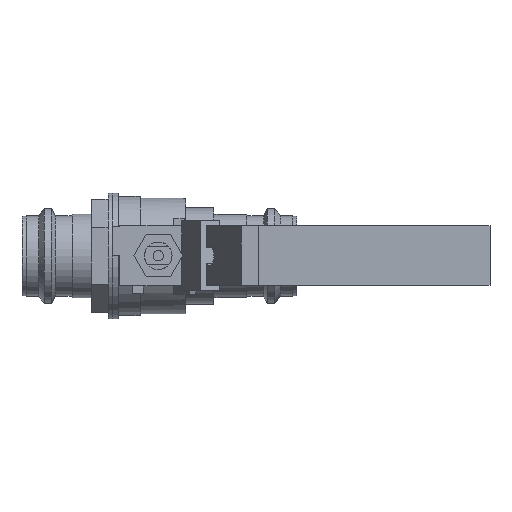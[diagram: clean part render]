
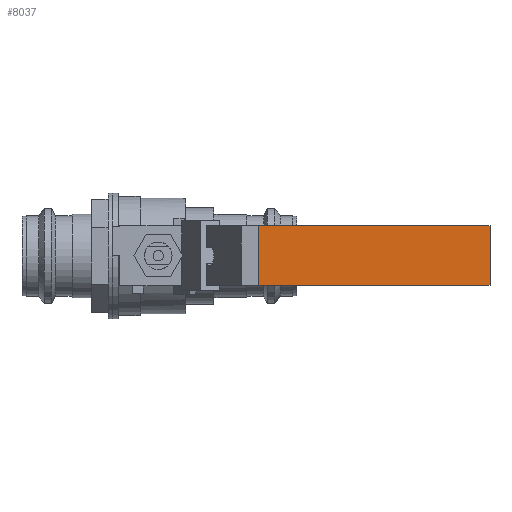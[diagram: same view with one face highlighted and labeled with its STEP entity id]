
A CAD part, top view. The second image highlights one B-rep face of the part: STEP entity #8037.
In plain terms, the highlighted planar face has unit normal (0, 0, 1).
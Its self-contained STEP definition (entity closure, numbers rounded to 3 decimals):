
#7592 = PLANE('',#7593);
#7593 = AXIS2_PLACEMENT_3D('',#7594,#7595,#7596);
#7594 = CARTESIAN_POINT('',(2.755,-0.468,2.22));
#7595 = DIRECTION('',(0.,1.,0.));
#7596 = DIRECTION('',(0.,-0.,1.));
#7696 = PLANE('',#7697);
#7697 = AXIS2_PLACEMENT_3D('',#7698,#7699,#7700);
#7698 = CARTESIAN_POINT('',(2.755,0.468,2.22));
#7699 = DIRECTION('',(0.,1.,0.));
#7700 = DIRECTION('',(0.,-0.,1.));
#7928 = PLANE('',#7929);
#7929 = AXIS2_PLACEMENT_3D('',#7930,#7931,#7932);
#7930 = CARTESIAN_POINT('',(3.712,0.468,3.251));
#7931 = DIRECTION('',(-1.,0.,0.));
#7932 = DIRECTION('',(0.,0.,-1.));
#7967 = VERTEX_POINT('',#7968);
#7968 = CARTESIAN_POINT('',(3.712,-0.468,3.374));
#7989 = EDGE_CURVE('',#7990,#7967,#7992,.T.);
#7990 = VERTEX_POINT('',#7991);
#7991 = CARTESIAN_POINT('',(3.712,0.468,3.374));
#7992 = SURFACE_CURVE('',#7993,(#7997,#8004),.PCURVE_S1.);
#7993 = LINE('',#7994,#7995);
#7994 = CARTESIAN_POINT('',(3.712,0.468,3.374));
#7995 = VECTOR('',#7996,1.);
#7996 = DIRECTION('',(0.,-1.,0.));
#7997 = PCURVE('',#7928,#7998);
#7998 = DEFINITIONAL_REPRESENTATION('',(#7999),#8003);
#7999 = LINE('',#8000,#8001);
#8000 = CARTESIAN_POINT('',(-0.123,-0.));
#8001 = VECTOR('',#8002,1.);
#8002 = DIRECTION('',(0.,1.));
#8003 = ( GEOMETRIC_REPRESENTATION_CONTEXT(2) 
PARAMETRIC_REPRESENTATION_CONTEXT() REPRESENTATION_CONTEXT('2D SPACE',''
  ) );
#8004 = PCURVE('',#8005,#8010);
#8005 = PLANE('',#8006);
#8006 = AXIS2_PLACEMENT_3D('',#8007,#8008,#8009);
#8007 = CARTESIAN_POINT('',(5.525,0.468,3.374));
#8008 = DIRECTION('',(0.,0.,1.));
#8009 = DIRECTION('',(-1.,0.,0.));
#8010 = DEFINITIONAL_REPRESENTATION('',(#8011),#8015);
#8011 = LINE('',#8012,#8013);
#8012 = CARTESIAN_POINT('',(1.813,0.));
#8013 = VECTOR('',#8014,1.);
#8014 = DIRECTION('',(0.,1.));
#8015 = ( GEOMETRIC_REPRESENTATION_CONTEXT(2) 
PARAMETRIC_REPRESENTATION_CONTEXT() REPRESENTATION_CONTEXT('2D SPACE',''
  ) );
#8037 = ADVANCED_FACE('',(#8038),#8005,.T.);
#8038 = FACE_BOUND('',#8039,.T.);
#8039 = EDGE_LOOP('',(#8040,#8063,#8091,#8112));
#8040 = ORIENTED_EDGE('',*,*,#8041,.T.);
#8041 = EDGE_CURVE('',#7967,#8042,#8044,.T.);
#8042 = VERTEX_POINT('',#8043);
#8043 = CARTESIAN_POINT('',(7.337,-0.468,3.374));
#8044 = SURFACE_CURVE('',#8045,(#8049,#8056),.PCURVE_S1.);
#8045 = LINE('',#8046,#8047);
#8046 = CARTESIAN_POINT('',(7.337,-0.468,3.374));
#8047 = VECTOR('',#8048,1.);
#8048 = DIRECTION('',(1.,0.,0.));
#8049 = PCURVE('',#8005,#8050);
#8050 = DEFINITIONAL_REPRESENTATION('',(#8051),#8055);
#8051 = LINE('',#8052,#8053);
#8052 = CARTESIAN_POINT('',(-1.813,0.935));
#8053 = VECTOR('',#8054,1.);
#8054 = DIRECTION('',(-1.,0.));
#8055 = ( GEOMETRIC_REPRESENTATION_CONTEXT(2) 
PARAMETRIC_REPRESENTATION_CONTEXT() REPRESENTATION_CONTEXT('2D SPACE',''
  ) );
#8056 = PCURVE('',#7592,#8057);
#8057 = DEFINITIONAL_REPRESENTATION('',(#8058),#8062);
#8058 = LINE('',#8059,#8060);
#8059 = CARTESIAN_POINT('',(1.154,4.582));
#8060 = VECTOR('',#8061,1.);
#8061 = DIRECTION('',(0.,1.));
#8062 = ( GEOMETRIC_REPRESENTATION_CONTEXT(2) 
PARAMETRIC_REPRESENTATION_CONTEXT() REPRESENTATION_CONTEXT('2D SPACE',''
  ) );
#8063 = ORIENTED_EDGE('',*,*,#8064,.F.);
#8064 = EDGE_CURVE('',#8065,#8042,#8067,.T.);
#8065 = VERTEX_POINT('',#8066);
#8066 = CARTESIAN_POINT('',(7.337,0.468,3.374));
#8067 = SURFACE_CURVE('',#8068,(#8072,#8079),.PCURVE_S1.);
#8068 = LINE('',#8069,#8070);
#8069 = CARTESIAN_POINT('',(7.337,0.468,3.374));
#8070 = VECTOR('',#8071,1.);
#8071 = DIRECTION('',(0.,-1.,0.));
#8072 = PCURVE('',#8005,#8073);
#8073 = DEFINITIONAL_REPRESENTATION('',(#8074),#8078);
#8074 = LINE('',#8075,#8076);
#8075 = CARTESIAN_POINT('',(-1.813,0.));
#8076 = VECTOR('',#8077,1.);
#8077 = DIRECTION('',(0.,1.));
#8078 = ( GEOMETRIC_REPRESENTATION_CONTEXT(2) 
PARAMETRIC_REPRESENTATION_CONTEXT() REPRESENTATION_CONTEXT('2D SPACE',''
  ) );
#8079 = PCURVE('',#8080,#8085);
#8080 = PLANE('',#8081);
#8081 = AXIS2_PLACEMENT_3D('',#8082,#8083,#8084);
#8082 = CARTESIAN_POINT('',(7.337,0.468,3.251));
#8083 = DIRECTION('',(1.,0.,0.));
#8084 = DIRECTION('',(0.,0.,1.));
#8085 = DEFINITIONAL_REPRESENTATION('',(#8086),#8090);
#8086 = LINE('',#8087,#8088);
#8087 = CARTESIAN_POINT('',(0.123,0.));
#8088 = VECTOR('',#8089,1.);
#8089 = DIRECTION('',(0.,1.));
#8090 = ( GEOMETRIC_REPRESENTATION_CONTEXT(2) 
PARAMETRIC_REPRESENTATION_CONTEXT() REPRESENTATION_CONTEXT('2D SPACE',''
  ) );
#8091 = ORIENTED_EDGE('',*,*,#8092,.T.);
#8092 = EDGE_CURVE('',#8065,#7990,#8093,.T.);
#8093 = SURFACE_CURVE('',#8094,(#8098,#8105),.PCURVE_S1.);
#8094 = LINE('',#8095,#8096);
#8095 = CARTESIAN_POINT('',(7.337,0.468,3.374));
#8096 = VECTOR('',#8097,1.);
#8097 = DIRECTION('',(-1.,0.,0.));
#8098 = PCURVE('',#8005,#8099);
#8099 = DEFINITIONAL_REPRESENTATION('',(#8100),#8104);
#8100 = LINE('',#8101,#8102);
#8101 = CARTESIAN_POINT('',(-1.813,0.));
#8102 = VECTOR('',#8103,1.);
#8103 = DIRECTION('',(1.,0.));
#8104 = ( GEOMETRIC_REPRESENTATION_CONTEXT(2) 
PARAMETRIC_REPRESENTATION_CONTEXT() REPRESENTATION_CONTEXT('2D SPACE',''
  ) );
#8105 = PCURVE('',#7696,#8106);
#8106 = DEFINITIONAL_REPRESENTATION('',(#8107),#8111);
#8107 = LINE('',#8108,#8109);
#8108 = CARTESIAN_POINT('',(1.154,4.582));
#8109 = VECTOR('',#8110,1.);
#8110 = DIRECTION('',(0.,-1.));
#8111 = ( GEOMETRIC_REPRESENTATION_CONTEXT(2) 
PARAMETRIC_REPRESENTATION_CONTEXT() REPRESENTATION_CONTEXT('2D SPACE',''
  ) );
#8112 = ORIENTED_EDGE('',*,*,#7989,.T.);
